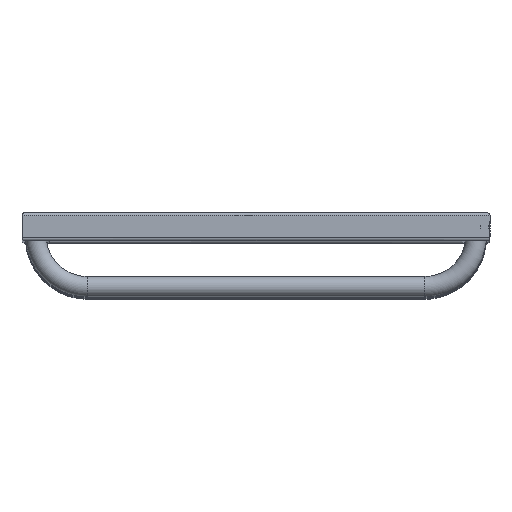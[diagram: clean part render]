
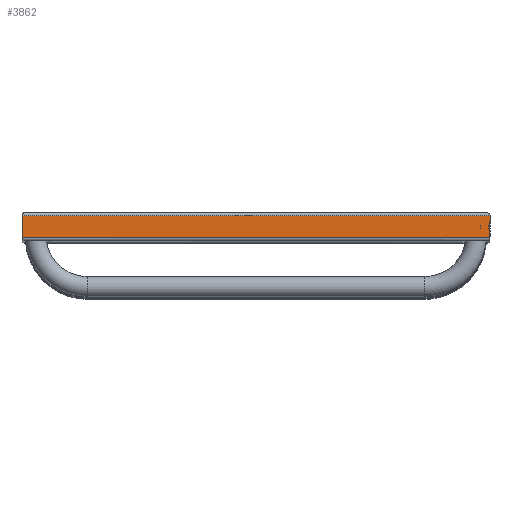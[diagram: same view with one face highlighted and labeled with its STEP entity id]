
A CAD part, top view. The second image highlights one B-rep face of the part: STEP entity #3862.
In plain terms, the highlighted planar face has unit normal (0, 0, 1).
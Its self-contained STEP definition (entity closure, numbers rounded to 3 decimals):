
#243=CARTESIAN_POINT('',(250.,12.,1480.0));
#244=VERTEX_POINT('',#243);
#251=CARTESIAN_POINT('',(250.,-12.,1480.0));
#252=VERTEX_POINT('',#251);
#253=CARTESIAN_POINT('',(250.,12.,1480.0));
#254=DIRECTION('',(0.0,-1.0,0.0));
#255=VECTOR('',#254,24.);
#256=LINE('',#253,#255);
#257=EDGE_CURVE('',#244,#252,#256,.T.);
#3713=CARTESIAN_POINT('',(-250.,12.,1480.0));
#3714=VERTEX_POINT('',#3713);
#3715=CARTESIAN_POINT('',(-250.,12.,1480.0));
#3716=DIRECTION('',(1.0,0.0,0.0));
#3717=VECTOR('',#3716,500.);
#3718=LINE('',#3715,#3717);
#3719=EDGE_CURVE('',#3714,#244,#3718,.T.);
#3757=CARTESIAN_POINT('',(-250.,-12.,1480.0));
#3758=VERTEX_POINT('',#3757);
#3765=CARTESIAN_POINT('',(-250.,-12.,1480.0));
#3766=DIRECTION('',(0.0,1.0,0.0));
#3767=VECTOR('',#3766,24.);
#3768=LINE('',#3765,#3767);
#3769=EDGE_CURVE('',#3758,#3714,#3768,.T.);
#3821=CARTESIAN_POINT('',(250.,-12.,1480.0));
#3822=DIRECTION('',(-1.0,0.0,0.0));
#3823=VECTOR('',#3822,500.);
#3824=LINE('',#3821,#3823);
#3825=EDGE_CURVE('',#252,#3758,#3824,.T.);
#3851=CARTESIAN_POINT('',(235.,0.,1480.0));
#3852=DIRECTION('',(0.0,0.0,1.0));
#3853=DIRECTION('',(1.0,0.0,0.0));
#3854=AXIS2_PLACEMENT_3D('',#3851,#3852,#3853);
#3855=PLANE('',#3854);
#3856=ORIENTED_EDGE('',*,*,#3719,.F.);
#3857=ORIENTED_EDGE('',*,*,#3769,.F.);
#3858=ORIENTED_EDGE('',*,*,#3825,.F.);
#3859=ORIENTED_EDGE('',*,*,#257,.F.);
#3860=EDGE_LOOP('',(#3856,#3857,#3858,#3859));
#3861=FACE_OUTER_BOUND('',#3860,.T.);
#3862=ADVANCED_FACE('',(#3861),#3855,.T.);
